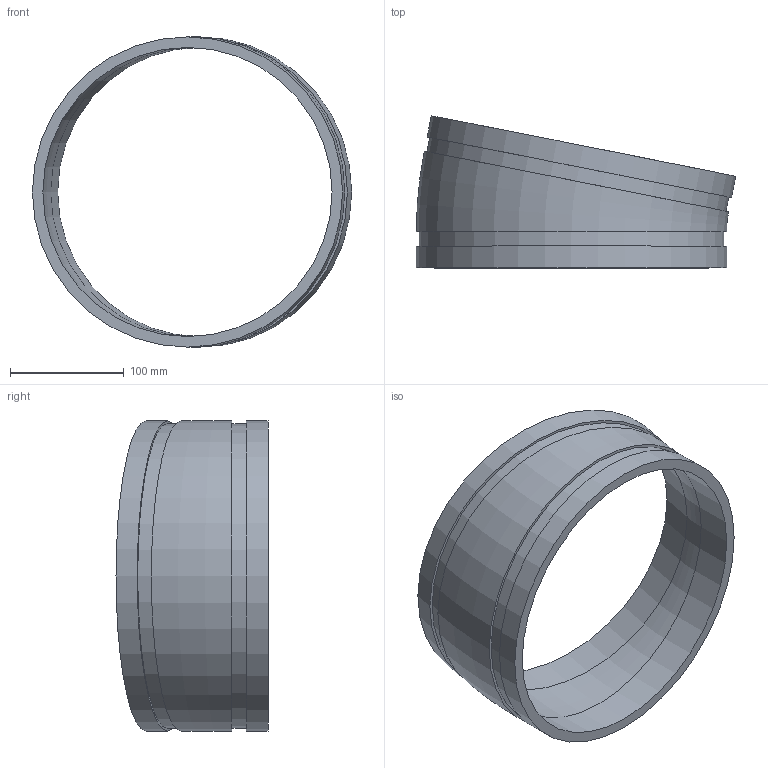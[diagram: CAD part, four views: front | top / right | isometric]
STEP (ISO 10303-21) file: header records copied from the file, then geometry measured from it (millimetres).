
FILE_DESCRIPTION(/* description */ ('VIC 11-1/4 DEG. ELBOW No 13','CAx-IF Rec.Pracs.---Representation and Presentation of Product Manufacturing Information (PMI)---4.0---2014-10-13'),/* implementation_level */ '2;1');
FILE_NAME(/* name */ 'C:\Users\kkamble\AppData\Roaming\Autodesk\ApplicationPlugins\Back Up\Victaulic_IPS_Elbow 11.25 Deg_No 13 (OGS)\Victaulic_IPS_Elbow 11.25 Deg_No 13 (OGS)_10 (250).stp',/* time_stamp */ '2020-07-24T08:09:28+06:00',/* author */ ('CONSTRUCTION PIPING SERVICES'),/* organization */ ('Victaulic'),/* preprocessor_version */ 'ST-DEVELOPER v17.2',/* originating_system */ 'Autodesk Inventor 2019',/* authorisation */ '');
FILE_SCHEMA (('AP242_MANAGED_MODEL_BASED_3D_ENGINEERING_MIM_LF { 1 0 10303 442 1 1 4 }'));
Length unit declared in the file: inch
Products named in the file (1): 013-10.0
Bounding box: 280.98 x 133.8 x 273.05 mm (x, y, z)
Volume: 778632.9 mm3; surface area: 202201.4 mm2
Topology: 1 solids, 1 shells, 14 faces, 32 edges, 24 vertices
Faces by surface type: plane 6, cylinder 6, torus 2
Full cylindrical faces by diameter (mm): 254.508 x2, 268.275 x2, 273.05 x2
Entity records: 487 total; most frequent: DIRECTION 88, CARTESIAN_POINT 71, ORIENTED_EDGE 64, AXIS2_PLACEMENT_3D 41, EDGE_CURVE 32, CIRCLE 26, VERTEX_POINT 24, EDGE_LOOP 20
